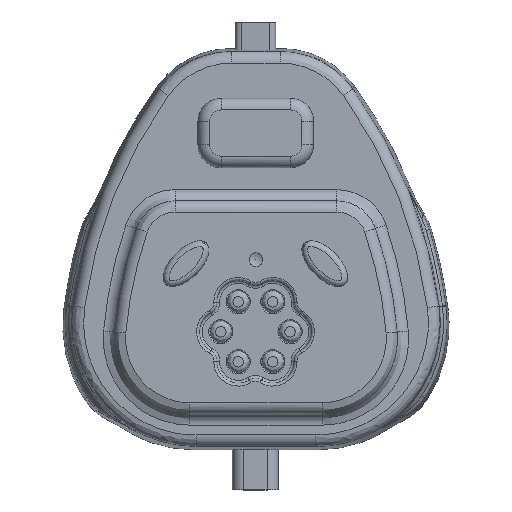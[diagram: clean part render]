
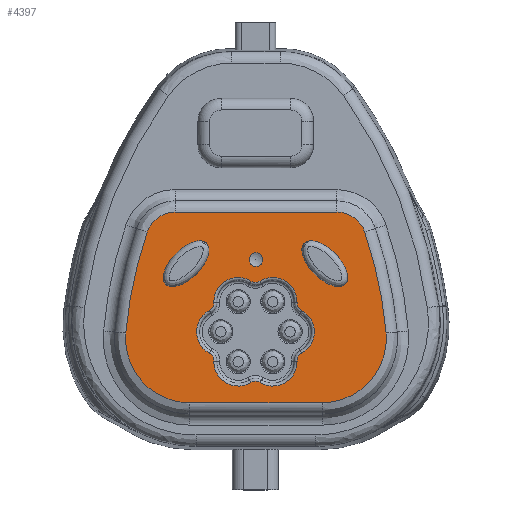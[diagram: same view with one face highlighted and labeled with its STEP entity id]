
A CAD part, top view. The second image highlights one B-rep face of the part: STEP entity #4397.
In plain terms, the highlighted planar face has unit normal (0, 0, 1).
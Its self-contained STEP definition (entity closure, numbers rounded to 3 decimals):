
#4397=ADVANCED_FACE('',(#5885,#5886,#5887,#5888,#5889),#4836,.T.);
#4836=PLANE('',#10666);
#4972=LINE('',#13068,#5227);
#4973=LINE('',#13084,#5228);
#5227=VECTOR('',#11378,1.);
#5228=VECTOR('',#11381,1.);
#5514=B_SPLINE_CURVE_WITH_KNOTS('',3,(#13060,#13061,#13062,#13063,#13064,
#13065),.UNSPECIFIED.,.F.,.F.,(4,2,4),(0.,0.5,1.),.UNSPECIFIED.);
#5515=B_SPLINE_CURVE_WITH_KNOTS('',3,(#13070,#13071,#13072,#13073,#13074,
#13075),.UNSPECIFIED.,.F.,.F.,(4,2,4),(0.,0.5,1.),.UNSPECIFIED.);
#5516=B_SPLINE_CURVE_WITH_KNOTS('',3,(#13079,#13080,#13081,#13082),
 .UNSPECIFIED.,.F.,.F.,(4,4),(0.,1.),.UNSPECIFIED.);
#5517=B_SPLINE_CURVE_WITH_KNOTS('',3,(#13086,#13087,#13088,#13089),
 .UNSPECIFIED.,.F.,.F.,(4,4),(0.,1.),.UNSPECIFIED.);
#5839=ELLIPSE('',#10661,5.,2.5);
#5840=ELLIPSE('',#10662,5.,2.5);
#5885=FACE_BOUND('',#6084,.T.);
#5886=FACE_BOUND('',#6085,.T.);
#5887=FACE_BOUND('',#6086,.T.);
#5888=FACE_BOUND('',#6087,.T.);
#5889=FACE_BOUND('',#6088,.T.);
#6084=EDGE_LOOP('',(#6631,#6632,#6633,#6634,#6635,#6636,#6637,#6638,#6639,
#6640,#6641,#6642));
#6085=EDGE_LOOP('',(#6643));
#6086=EDGE_LOOP('',(#6644));
#6087=EDGE_LOOP('',(#6645));
#6088=EDGE_LOOP('',(#6646,#6647,#6648,#6649,#6650,#6651,#6652,#6653));
#6631=ORIENTED_EDGE('',*,*,#9298,.T.);
#6632=ORIENTED_EDGE('',*,*,#9299,.T.);
#6633=ORIENTED_EDGE('',*,*,#9300,.T.);
#6634=ORIENTED_EDGE('',*,*,#9301,.T.);
#6635=ORIENTED_EDGE('',*,*,#9302,.T.);
#6636=ORIENTED_EDGE('',*,*,#9303,.T.);
#6637=ORIENTED_EDGE('',*,*,#9304,.T.);
#6638=ORIENTED_EDGE('',*,*,#9305,.T.);
#6639=ORIENTED_EDGE('',*,*,#9306,.T.);
#6640=ORIENTED_EDGE('',*,*,#9307,.T.);
#6641=ORIENTED_EDGE('',*,*,#9308,.T.);
#6642=ORIENTED_EDGE('',*,*,#9309,.T.);
#6643=ORIENTED_EDGE('',*,*,#9310,.F.);
#6644=ORIENTED_EDGE('',*,*,#9311,.F.);
#6645=ORIENTED_EDGE('',*,*,#9312,.T.);
#6646=ORIENTED_EDGE('',*,*,#9313,.T.);
#6647=ORIENTED_EDGE('',*,*,#9314,.T.);
#6648=ORIENTED_EDGE('',*,*,#9315,.T.);
#6649=ORIENTED_EDGE('',*,*,#9316,.T.);
#6650=ORIENTED_EDGE('',*,*,#9317,.T.);
#6651=ORIENTED_EDGE('',*,*,#9318,.T.);
#6652=ORIENTED_EDGE('',*,*,#9319,.T.);
#6653=ORIENTED_EDGE('',*,*,#9320,.T.);
#8623=VERTEX_POINT('',#13031);
#8624=VERTEX_POINT('',#13032);
#8625=VERTEX_POINT('',#13034);
#8626=VERTEX_POINT('',#13036);
#8627=VERTEX_POINT('',#13038);
#8628=VERTEX_POINT('',#13040);
#8629=VERTEX_POINT('',#13042);
#8630=VERTEX_POINT('',#13044);
#8631=VERTEX_POINT('',#13046);
#8632=VERTEX_POINT('',#13048);
#8633=VERTEX_POINT('',#13050);
#8634=VERTEX_POINT('',#13052);
#8635=VERTEX_POINT('',#13055);
#8636=VERTEX_POINT('',#13057);
#8637=VERTEX_POINT('',#13059);
#8638=VERTEX_POINT('',#13066);
#8639=VERTEX_POINT('',#13067);
#8640=VERTEX_POINT('',#13069);
#8641=VERTEX_POINT('',#13076);
#8642=VERTEX_POINT('',#13078);
#8643=VERTEX_POINT('',#13083);
#8644=VERTEX_POINT('',#13085);
#8645=VERTEX_POINT('',#13090);
#9298=EDGE_CURVE('',#8623,#8624,#10294,.T.);
#9299=EDGE_CURVE('',#8624,#8625,#10295,.T.);
#9300=EDGE_CURVE('',#8625,#8626,#10296,.T.);
#9301=EDGE_CURVE('',#8626,#8627,#10297,.T.);
#9302=EDGE_CURVE('',#8627,#8628,#10298,.T.);
#9303=EDGE_CURVE('',#8628,#8629,#10299,.T.);
#9304=EDGE_CURVE('',#8629,#8630,#10300,.T.);
#9305=EDGE_CURVE('',#8630,#8631,#10301,.T.);
#9306=EDGE_CURVE('',#8631,#8632,#10302,.T.);
#9307=EDGE_CURVE('',#8632,#8633,#10303,.T.);
#9308=EDGE_CURVE('',#8633,#8634,#10304,.T.);
#9309=EDGE_CURVE('',#8634,#8623,#10305,.T.);
#9310=EDGE_CURVE('',#8635,#8635,#5839,.T.);
#9311=EDGE_CURVE('',#8636,#8636,#5840,.T.);
#9312=EDGE_CURVE('',#8637,#8637,#10306,.T.);
#9313=EDGE_CURVE('',#8638,#8639,#5514,.T.);
#9314=EDGE_CURVE('',#8639,#8640,#4972,.T.);
#9315=EDGE_CURVE('',#8640,#8641,#5515,.T.);
#9316=EDGE_CURVE('',#8641,#8642,#10307,.T.);
#9317=EDGE_CURVE('',#8642,#8643,#5516,.T.);
#9318=EDGE_CURVE('',#8643,#8644,#4973,.T.);
#9319=EDGE_CURVE('',#8644,#8645,#5517,.T.);
#9320=EDGE_CURVE('',#8645,#8638,#10308,.T.);
#10294=CIRCLE('',#10649,4.2);
#10295=CIRCLE('',#10650,1.5);
#10296=CIRCLE('',#10651,4.2);
#10297=CIRCLE('',#10652,1.5);
#10298=CIRCLE('',#10653,4.2);
#10299=CIRCLE('',#10654,1.5);
#10300=CIRCLE('',#10655,4.2);
#10301=CIRCLE('',#10656,1.5);
#10302=CIRCLE('',#10657,4.2);
#10303=CIRCLE('',#10658,1.5);
#10304=CIRCLE('',#10659,4.2);
#10305=CIRCLE('',#10660,1.5);
#10306=CIRCLE('',#10663,1.187);
#10307=CIRCLE('',#10664,74.224);
#10308=CIRCLE('',#10665,74.224);
#10649=AXIS2_PLACEMENT_3D('',#13030,#11348,#11349);
#10650=AXIS2_PLACEMENT_3D('',#13033,#11350,#11351);
#10651=AXIS2_PLACEMENT_3D('',#13035,#11352,#11353);
#10652=AXIS2_PLACEMENT_3D('',#13037,#11354,#11355);
#10653=AXIS2_PLACEMENT_3D('',#13039,#11356,#11357);
#10654=AXIS2_PLACEMENT_3D('',#13041,#11358,#11359);
#10655=AXIS2_PLACEMENT_3D('',#13043,#11360,#11361);
#10656=AXIS2_PLACEMENT_3D('',#13045,#11362,#11363);
#10657=AXIS2_PLACEMENT_3D('',#13047,#11364,#11365);
#10658=AXIS2_PLACEMENT_3D('',#13049,#11366,#11367);
#10659=AXIS2_PLACEMENT_3D('',#13051,#11368,#11369);
#10660=AXIS2_PLACEMENT_3D('',#13053,#11370,#11371);
#10661=AXIS2_PLACEMENT_3D('',#13054,#11372,#11373);
#10662=AXIS2_PLACEMENT_3D('',#13056,#11374,#11375);
#10663=AXIS2_PLACEMENT_3D('',#13058,#11376,#11377);
#10664=AXIS2_PLACEMENT_3D('',#13077,#11379,#11380);
#10665=AXIS2_PLACEMENT_3D('',#13091,#11382,#11383);
#10666=AXIS2_PLACEMENT_3D('',#13092,#11384,#11385);
#11348=DIRECTION('',(0.,0.,-1.));
#11349=DIRECTION('',(1.,0.,0.));
#11350=DIRECTION('',(0.,0.,1.));
#11351=DIRECTION('',(1.,0.,0.));
#11352=DIRECTION('',(0.,0.,-1.));
#11353=DIRECTION('',(1.,0.,0.));
#11354=DIRECTION('',(0.,0.,1.));
#11355=DIRECTION('',(1.,0.,0.));
#11356=DIRECTION('',(0.,0.,-1.));
#11357=DIRECTION('',(1.,0.,0.));
#11358=DIRECTION('',(0.,0.,1.));
#11359=DIRECTION('',(1.,0.,0.));
#11360=DIRECTION('',(0.,0.,-1.));
#11361=DIRECTION('',(1.,0.,0.));
#11362=DIRECTION('',(0.,0.,1.));
#11363=DIRECTION('',(1.,0.,0.));
#11364=DIRECTION('',(0.,0.,-1.));
#11365=DIRECTION('',(1.,0.,0.));
#11366=DIRECTION('',(0.,0.,1.));
#11367=DIRECTION('',(1.,0.,0.));
#11368=DIRECTION('',(0.,0.,-1.));
#11369=DIRECTION('',(1.,0.,0.));
#11370=DIRECTION('',(0.,0.,1.));
#11371=DIRECTION('',(1.,0.,0.));
#11372=DIRECTION('',(0.,0.,1.));
#11373=DIRECTION('',(-0.707,0.707,0.));
#11374=DIRECTION('',(0.,0.,1.));
#11375=DIRECTION('',(0.707,0.707,0.));
#11376=DIRECTION('',(0.,0.,-1.));
#11377=DIRECTION('',(0.,-1.,0.));
#11378=DIRECTION('',(1.,0.,0.));
#11379=DIRECTION('',(0.,0.,1.));
#11380=DIRECTION('',(0.,-1.,0.));
#11381=DIRECTION('',(-1.,0.,0.));
#11382=DIRECTION('',(0.,0.,1.));
#11383=DIRECTION('',(0.,-1.,0.));
#11384=DIRECTION('',(0.,0.,1.));
#11385=DIRECTION('',(0.,-1.,0.));
#13030=CARTESIAN_POINT('',(-6.,-12.5,16.));
#13031=CARTESIAN_POINT('',(-7.987,-16.2,16.));
#13032=CARTESIAN_POINT('',(-7.987,-8.8,16.));
#13033=CARTESIAN_POINT('',(-8.697,-7.479,16.));
#13034=CARTESIAN_POINT('',(-7.198,-7.433,16.));
#13035=CARTESIAN_POINT('',(-3.,-7.304,16.));
#13036=CARTESIAN_POINT('',(-0.789,-3.733,16.));
#13037=CARTESIAN_POINT('',(0.,-2.457,16.));
#13038=CARTESIAN_POINT('',(0.789,-3.733,16.));
#13039=CARTESIAN_POINT('',(3.,-7.304,16.));
#13040=CARTESIAN_POINT('',(7.198,-7.433,16.));
#13041=CARTESIAN_POINT('',(8.697,-7.479,16.));
#13042=CARTESIAN_POINT('',(7.987,-8.8,16.));
#13043=CARTESIAN_POINT('',(6.,-12.5,16.));
#13044=CARTESIAN_POINT('',(7.987,-16.2,16.));
#13045=CARTESIAN_POINT('',(8.697,-17.521,16.));
#13046=CARTESIAN_POINT('',(7.198,-17.567,16.));
#13047=CARTESIAN_POINT('',(3.,-17.696,16.));
#13048=CARTESIAN_POINT('',(0.789,-21.267,16.));
#13049=CARTESIAN_POINT('',(0.,-22.543,16.));
#13050=CARTESIAN_POINT('',(-0.789,-21.267,16.));
#13051=CARTESIAN_POINT('',(-3.,-17.696,16.));
#13052=CARTESIAN_POINT('',(-7.198,-17.567,16.));
#13053=CARTESIAN_POINT('',(-8.697,-17.521,16.));
#13054=CARTESIAN_POINT('',(12.,-0.7,16.));
#13055=CARTESIAN_POINT('',(8.464,2.836,16.));
#13056=CARTESIAN_POINT('',(-12.,-0.7,16.));
#13057=CARTESIAN_POINT('',(-8.464,2.836,16.));
#13058=CARTESIAN_POINT('',(0.087,0.,16.));
#13059=CARTESIAN_POINT('',(0.087,-1.187,16.));
#13060=CARTESIAN_POINT('',(-22.445,-12.701,16.));
#13061=CARTESIAN_POINT('',(-22.715,-15.783,16.));
#13062=CARTESIAN_POINT('',(-21.628,-18.937,16.));
#13063=CARTESIAN_POINT('',(-17.502,-23.43,16.));
#13064=CARTESIAN_POINT('',(-14.475,-24.775,16.));
#13065=CARTESIAN_POINT('',(-11.381,-24.775,16.));
#13066=CARTESIAN_POINT('',(-22.445,-12.701,16.));
#13067=CARTESIAN_POINT('',(-11.381,-24.775,16.));
#13068=CARTESIAN_POINT('',(11.492,-24.775,16.));
#13069=CARTESIAN_POINT('',(11.555,-24.775,16.));
#13070=CARTESIAN_POINT('',(11.555,-24.775,16.));
#13071=CARTESIAN_POINT('',(14.653,-24.775,16.));
#13072=CARTESIAN_POINT('',(17.679,-23.433,16.));
#13073=CARTESIAN_POINT('',(21.816,-18.917,16.));
#13074=CARTESIAN_POINT('',(22.889,-15.787,16.));
#13075=CARTESIAN_POINT('',(22.62,-12.701,16.));
#13076=CARTESIAN_POINT('',(22.62,-12.701,16.));
#13077=CARTESIAN_POINT('',(-51.323,-19.166,16.));
#13078=CARTESIAN_POINT('',(18.934,4.776,16.));
#13079=CARTESIAN_POINT('',(18.934,4.776,16.));
#13080=CARTESIAN_POINT('',(18.245,6.798,16.));
#13081=CARTESIAN_POINT('',(16.229,8.241,16.));
#13082=CARTESIAN_POINT('',(14.093,8.241,16.));
#13083=CARTESIAN_POINT('',(14.093,8.241,16.));
#13084=CARTESIAN_POINT('',(-13.877,8.241,16.));
#13085=CARTESIAN_POINT('',(-13.919,8.241,16.));
#13086=CARTESIAN_POINT('',(-13.919,8.241,16.));
#13087=CARTESIAN_POINT('',(-16.055,8.241,16.));
#13088=CARTESIAN_POINT('',(-18.071,6.798,16.));
#13089=CARTESIAN_POINT('',(-18.76,4.776,16.));
#13090=CARTESIAN_POINT('',(-18.76,4.776,16.));
#13091=CARTESIAN_POINT('',(51.497,-19.166,16.));
#13092=CARTESIAN_POINT('',(0.087,3.092,16.));
